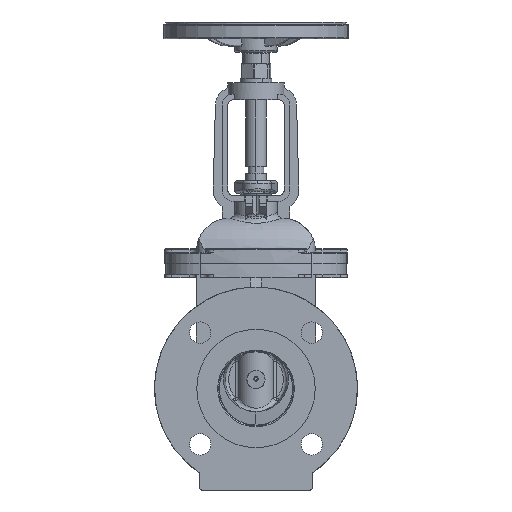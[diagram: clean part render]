
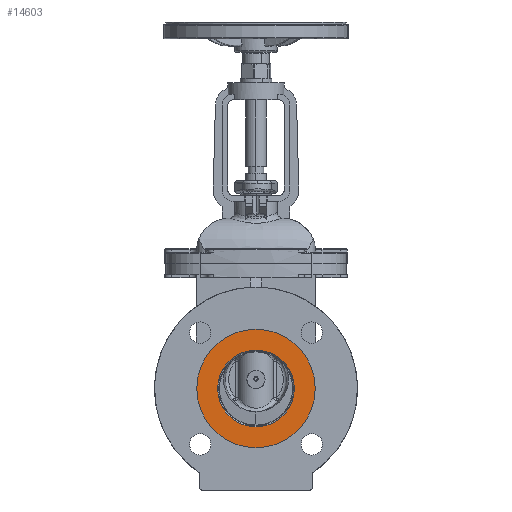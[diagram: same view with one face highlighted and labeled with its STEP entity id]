
A CAD part, left-side view. The second image highlights one B-rep face of the part: STEP entity #14603.
In plain terms, the highlighted planar face has unit normal (-1, 0, 0).
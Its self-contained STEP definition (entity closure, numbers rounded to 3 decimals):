
#3409 = CYLINDRICAL_SURFACE('',#3410,34.);
#3410 = AXIS2_PLACEMENT_3D('',#3411,#3412,#3413);
#3411 = CARTESIAN_POINT('',(-94.855,3.891,190.5));
#3412 = DIRECTION('',(-1.,0.,0.));
#3413 = DIRECTION('',(0.,0.,1.));
#4400 = VERTEX_POINT('',#4401);
#4401 = CARTESIAN_POINT('',(-109.855,3.891,224.5));
#4415 = CYLINDRICAL_SURFACE('',#4416,34.);
#4416 = AXIS2_PLACEMENT_3D('',#4417,#4418,#4419);
#4417 = CARTESIAN_POINT('',(-94.855,3.891,190.5));
#4418 = DIRECTION('',(-1.,0.,0.));
#4419 = DIRECTION('',(0.,0.,1.));
#4427 = EDGE_CURVE('',#4428,#4400,#4430,.T.);
#4428 = VERTEX_POINT('',#4429);
#4429 = CARTESIAN_POINT('',(-109.855,3.891,156.5));
#4430 = SURFACE_CURVE('',#4431,(#4436,#4443),.PCURVE_S1.);
#4431 = CIRCLE('',#4432,34.);
#4432 = AXIS2_PLACEMENT_3D('',#4433,#4434,#4435);
#4433 = CARTESIAN_POINT('',(-109.855,3.891,190.5));
#4434 = DIRECTION('',(-1.,0.,0.));
#4435 = DIRECTION('',(0.,0.,1.));
#4436 = PCURVE('',#3409,#4437);
#4437 = DEFINITIONAL_REPRESENTATION('',(#4438),#4442);
#4438 = LINE('',#4439,#4440);
#4439 = CARTESIAN_POINT('',(0.,15.));
#4440 = VECTOR('',#4441,1.);
#4441 = DIRECTION('',(1.,0.));
#4442 = ( GEOMETRIC_REPRESENTATION_CONTEXT(2) 
PARAMETRIC_REPRESENTATION_CONTEXT() REPRESENTATION_CONTEXT('2D SPACE',''
  ) );
#4443 = PCURVE('',#4444,#4449);
#4444 = PLANE('',#4445);
#4445 = AXIS2_PLACEMENT_3D('',#4446,#4447,#4448);
#4446 = CARTESIAN_POINT('',(-109.855,3.891,190.5));
#4447 = DIRECTION('',(1.,0.,0.));
#4448 = DIRECTION('',(0.,0.,-1.));
#4449 = DEFINITIONAL_REPRESENTATION('',(#4450),#4458);
#4450 = ( BOUNDED_CURVE() B_SPLINE_CURVE(2,(#4451,#4452,#4453,#4454,
#4455,#4456,#4457),.UNSPECIFIED.,.T.,.F.) B_SPLINE_CURVE_WITH_KNOTS((1,2
    ,2,2,2,1),(-2.094,0.,2.094,4.189,
6.283,8.378),.UNSPECIFIED.) CURVE() 
GEOMETRIC_REPRESENTATION_ITEM() RATIONAL_B_SPLINE_CURVE((1.,0.5,1.,0.5,
1.,0.5,1.)) REPRESENTATION_ITEM('') );
#4451 = CARTESIAN_POINT('',(-34.,0.));
#4452 = CARTESIAN_POINT('',(-34.,58.89));
#4453 = CARTESIAN_POINT('',(17.,29.445));
#4454 = CARTESIAN_POINT('',(68.,0.));
#4455 = CARTESIAN_POINT('',(17.,-29.445));
#4456 = CARTESIAN_POINT('',(-34.,-58.89));
#4457 = CARTESIAN_POINT('',(-34.,0.));
#4458 = ( GEOMETRIC_REPRESENTATION_CONTEXT(2) 
PARAMETRIC_REPRESENTATION_CONTEXT() REPRESENTATION_CONTEXT('2D SPACE',''
  ) );
#4497 = CYLINDRICAL_SURFACE('',#4498,52.5);
#4498 = AXIS2_PLACEMENT_3D('',#4499,#4500,#4501);
#4499 = CARTESIAN_POINT('',(-107.855,3.891,190.5));
#4500 = DIRECTION('',(-1.,0.,0.));
#4501 = DIRECTION('',(0.,0.,1.));
#4522 = VERTEX_POINT('',#4523);
#4523 = CARTESIAN_POINT('',(-109.855,3.891,138.));
#4537 = CYLINDRICAL_SURFACE('',#4538,52.5);
#4538 = AXIS2_PLACEMENT_3D('',#4539,#4540,#4541);
#4539 = CARTESIAN_POINT('',(-107.855,3.891,190.5));
#4540 = DIRECTION('',(-1.,0.,0.));
#4541 = DIRECTION('',(0.,0.,1.));
#4549 = EDGE_CURVE('',#4550,#4522,#4552,.T.);
#4550 = VERTEX_POINT('',#4551);
#4551 = CARTESIAN_POINT('',(-109.855,3.891,243.));
#4552 = SURFACE_CURVE('',#4553,(#4558,#4565),.PCURVE_S1.);
#4553 = CIRCLE('',#4554,52.5);
#4554 = AXIS2_PLACEMENT_3D('',#4555,#4556,#4557);
#4555 = CARTESIAN_POINT('',(-109.855,3.891,190.5));
#4556 = DIRECTION('',(-1.,0.,0.));
#4557 = DIRECTION('',(0.,0.,1.));
#4558 = PCURVE('',#4497,#4559);
#4559 = DEFINITIONAL_REPRESENTATION('',(#4560),#4564);
#4560 = LINE('',#4561,#4562);
#4561 = CARTESIAN_POINT('',(0.,2.));
#4562 = VECTOR('',#4563,1.);
#4563 = DIRECTION('',(1.,0.));
#4564 = ( GEOMETRIC_REPRESENTATION_CONTEXT(2) 
PARAMETRIC_REPRESENTATION_CONTEXT() REPRESENTATION_CONTEXT('2D SPACE',''
  ) );
#4565 = PCURVE('',#4444,#4566);
#4566 = DEFINITIONAL_REPRESENTATION('',(#4567),#4575);
#4567 = ( BOUNDED_CURVE() B_SPLINE_CURVE(2,(#4568,#4569,#4570,#4571,
#4572,#4573,#4574),.UNSPECIFIED.,.T.,.F.) B_SPLINE_CURVE_WITH_KNOTS((1,2
    ,2,2,2,1),(-2.094,0.,2.094,4.189,
6.283,8.378),.UNSPECIFIED.) CURVE() 
GEOMETRIC_REPRESENTATION_ITEM() RATIONAL_B_SPLINE_CURVE((1.,0.5,1.,0.5,
1.,0.5,1.)) REPRESENTATION_ITEM('') );
#4568 = CARTESIAN_POINT('',(-52.5,0.));
#4569 = CARTESIAN_POINT('',(-52.5,90.933));
#4570 = CARTESIAN_POINT('',(26.25,45.466));
#4571 = CARTESIAN_POINT('',(105.,0.));
#4572 = CARTESIAN_POINT('',(26.25,-45.466));
#4573 = CARTESIAN_POINT('',(-52.5,-90.933));
#4574 = CARTESIAN_POINT('',(-52.5,0.));
#4575 = ( GEOMETRIC_REPRESENTATION_CONTEXT(2) 
PARAMETRIC_REPRESENTATION_CONTEXT() REPRESENTATION_CONTEXT('2D SPACE',''
  ) );
#14474 = EDGE_CURVE('',#4522,#4550,#14475,.T.);
#14475 = SURFACE_CURVE('',#14476,(#14481,#14488),.PCURVE_S1.);
#14476 = CIRCLE('',#14477,52.5);
#14477 = AXIS2_PLACEMENT_3D('',#14478,#14479,#14480);
#14478 = CARTESIAN_POINT('',(-109.855,3.891,190.5));
#14479 = DIRECTION('',(-1.,0.,0.));
#14480 = DIRECTION('',(0.,0.,1.));
#14481 = PCURVE('',#4537,#14482);
#14482 = DEFINITIONAL_REPRESENTATION('',(#14483),#14487);
#14483 = LINE('',#14484,#14485);
#14484 = CARTESIAN_POINT('',(0.,2.));
#14485 = VECTOR('',#14486,1.);
#14486 = DIRECTION('',(1.,0.));
#14487 = ( GEOMETRIC_REPRESENTATION_CONTEXT(2) 
PARAMETRIC_REPRESENTATION_CONTEXT() REPRESENTATION_CONTEXT('2D SPACE',''
  ) );
#14488 = PCURVE('',#4444,#14489);
#14489 = DEFINITIONAL_REPRESENTATION('',(#14490),#14498);
#14490 = ( BOUNDED_CURVE() B_SPLINE_CURVE(2,(#14491,#14492,#14493,#14494
    ,#14495,#14496,#14497),.UNSPECIFIED.,.T.,.F.) 
B_SPLINE_CURVE_WITH_KNOTS((1,2,2,2,2,1),(-2.094,0.,
    2.094,4.189,6.283,8.378),
.UNSPECIFIED.) CURVE() GEOMETRIC_REPRESENTATION_ITEM() 
RATIONAL_B_SPLINE_CURVE((1.,0.5,1.,0.5,1.,0.5,1.)) REPRESENTATION_ITEM(
  '') );
#14491 = CARTESIAN_POINT('',(-52.5,0.));
#14492 = CARTESIAN_POINT('',(-52.5,90.933));
#14493 = CARTESIAN_POINT('',(26.25,45.466));
#14494 = CARTESIAN_POINT('',(105.,0.));
#14495 = CARTESIAN_POINT('',(26.25,-45.466));
#14496 = CARTESIAN_POINT('',(-52.5,-90.933));
#14497 = CARTESIAN_POINT('',(-52.5,0.));
#14498 = ( GEOMETRIC_REPRESENTATION_CONTEXT(2) 
PARAMETRIC_REPRESENTATION_CONTEXT() REPRESENTATION_CONTEXT('2D SPACE',''
  ) );
#14578 = EDGE_CURVE('',#4400,#4428,#14579,.T.);
#14579 = SURFACE_CURVE('',#14580,(#14585,#14592),.PCURVE_S1.);
#14580 = CIRCLE('',#14581,34.);
#14581 = AXIS2_PLACEMENT_3D('',#14582,#14583,#14584);
#14582 = CARTESIAN_POINT('',(-109.855,3.891,190.5));
#14583 = DIRECTION('',(-1.,0.,0.));
#14584 = DIRECTION('',(0.,0.,1.));
#14585 = PCURVE('',#4415,#14586);
#14586 = DEFINITIONAL_REPRESENTATION('',(#14587),#14591);
#14587 = LINE('',#14588,#14589);
#14588 = CARTESIAN_POINT('',(0.,15.));
#14589 = VECTOR('',#14590,1.);
#14590 = DIRECTION('',(1.,0.));
#14591 = ( GEOMETRIC_REPRESENTATION_CONTEXT(2) 
PARAMETRIC_REPRESENTATION_CONTEXT() REPRESENTATION_CONTEXT('2D SPACE',''
  ) );
#14592 = PCURVE('',#4444,#14593);
#14593 = DEFINITIONAL_REPRESENTATION('',(#14594),#14602);
#14594 = ( BOUNDED_CURVE() B_SPLINE_CURVE(2,(#14595,#14596,#14597,#14598
    ,#14599,#14600,#14601),.UNSPECIFIED.,.T.,.F.) 
B_SPLINE_CURVE_WITH_KNOTS((1,2,2,2,2,1),(-2.094,0.,
    2.094,4.189,6.283,8.378),
.UNSPECIFIED.) CURVE() GEOMETRIC_REPRESENTATION_ITEM() 
RATIONAL_B_SPLINE_CURVE((1.,0.5,1.,0.5,1.,0.5,1.)) REPRESENTATION_ITEM(
  '') );
#14595 = CARTESIAN_POINT('',(-34.,0.));
#14596 = CARTESIAN_POINT('',(-34.,58.89));
#14597 = CARTESIAN_POINT('',(17.,29.445));
#14598 = CARTESIAN_POINT('',(68.,0.));
#14599 = CARTESIAN_POINT('',(17.,-29.445));
#14600 = CARTESIAN_POINT('',(-34.,-58.89));
#14601 = CARTESIAN_POINT('',(-34.,0.));
#14602 = ( GEOMETRIC_REPRESENTATION_CONTEXT(2) 
PARAMETRIC_REPRESENTATION_CONTEXT() REPRESENTATION_CONTEXT('2D SPACE',''
  ) );
#14603 = ADVANCED_FACE('',(#14604,#14608),#4444,.F.);
#14604 = FACE_BOUND('',#14605,.T.);
#14605 = EDGE_LOOP('',(#14606,#14607));
#14606 = ORIENTED_EDGE('',*,*,#14578,.F.);
#14607 = ORIENTED_EDGE('',*,*,#4427,.F.);
#14608 = FACE_BOUND('',#14609,.T.);
#14609 = EDGE_LOOP('',(#14610,#14611));
#14610 = ORIENTED_EDGE('',*,*,#4549,.T.);
#14611 = ORIENTED_EDGE('',*,*,#14474,.T.);
